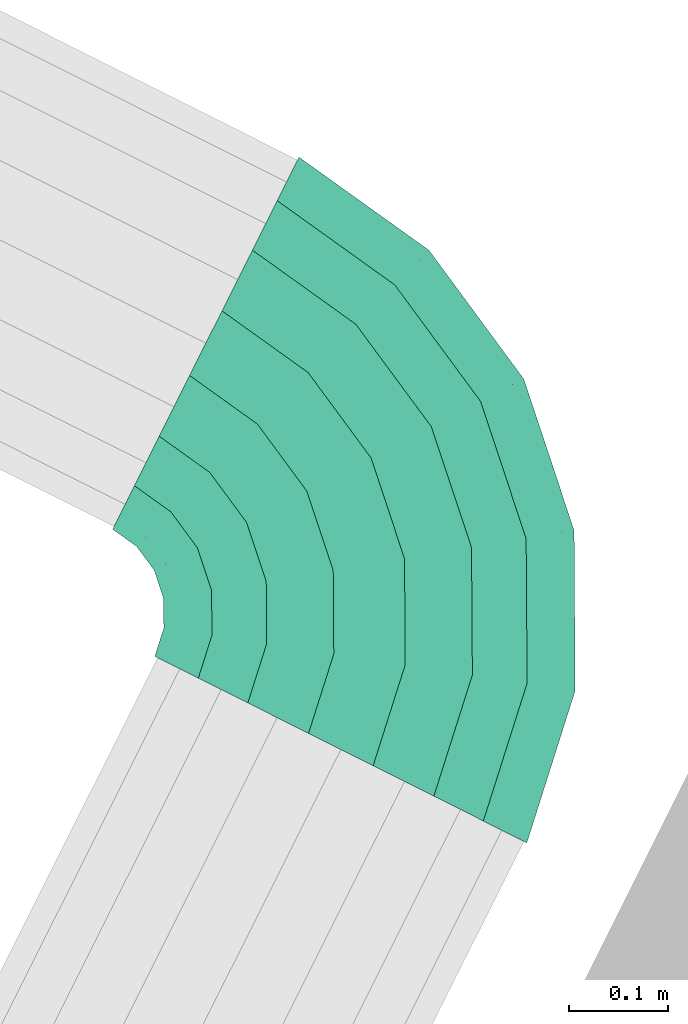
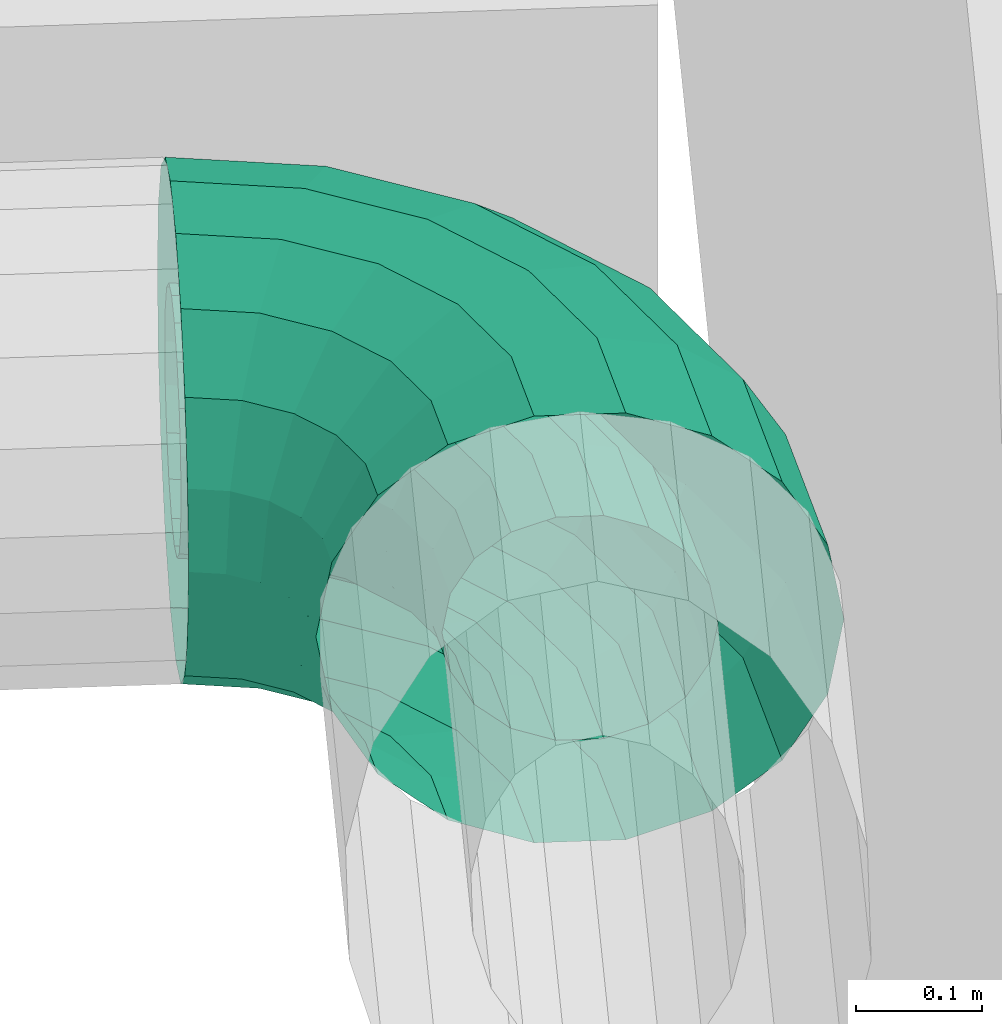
# One storey, part 51 of 206: 1 flow segment.
"""IFC2X3 building model written with IfcOpenShell, lengths in metres."""

from ifc_helpers import new_model, si_unit, derived_unit, direction, frame, origin, place, context, subcontext, project, spatial, face_set, surface_model, source, transform, mapped, material, type_object, type_shapes, element, save


model = new_model("IFC2X3")

# Units and contexts
model_context = context("Model", 3, precision=5.2338327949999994e-05, world=origin(), true_north=direction((0.0, 1.0)))
body_context = subcontext(model_context, "Body", "Model", "MODEL_VIEW")
ifc_project = project(units=[si_unit("LENGTHUNIT", "METRE"), si_unit("AREAUNIT", "SQUARE_METRE"), si_unit("VOLUMEUNIT", "CUBIC_METRE"), si_unit("MASSUNIT", "GRAM", prefix="KILO"), si_unit("PLANEANGLEUNIT", "RADIAN"), derived_unit("THERMALTRANSMITTANCEUNIT", [(si_unit("MASSUNIT", "GRAM", prefix="KILO"), 1), (si_unit("THERMODYNAMICTEMPERATUREUNIT", "KELVIN"), -1), (si_unit("TIMEUNIT", "SECOND"), -3)])], contexts=[model_context])

# Site, building, storey
site_placement = place(None, frame((0.0, 0.0, 0.0), z_axis=(0.0, 0.0, 1.0), x_axis=(0.8939966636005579, -0.4480736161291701, 0.0)))
site = spatial("IfcSite", under=ifc_project, at=site_placement, Name="Default", CompositionType="ELEMENT")
building_placement = place(site_placement, origin())
building = spatial("IfcBuilding", under=site, at=building_placement, CompositionType="ELEMENT")
storey_placement = place(building_placement, origin())
storey = spatial("IfcBuildingStorey", under=building, at=storey_placement, Name="Erdgeschoss", CompositionType="ELEMENT", Elevation=0.0)

# Flow segment
ifc_material = material(Name="IfcSurfaceStyle #9317")
distribution_element_type = type_object("IfcDistributionElementType", Name="Rohrbogen 342300:Rohrbogen 342300", material=ifc_material)
shared_shape = source(origin(), body_context, "Body", "SurfaceModel", [
    surface_model("IfcFaceBasedSurfaceModel", [(28.271548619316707, 4.97886291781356, 2.354), (28.271548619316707, 4.972256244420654, 2.3914683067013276), (28.39761003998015, 4.952290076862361, 2.391468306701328), (28.399651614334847, 4.958573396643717, 2.3540000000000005), (28.511331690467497, 4.894346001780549, 2.391468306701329), (28.515214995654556, 4.899690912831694, 2.354000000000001), (28.6015817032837, 4.804095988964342, 2.3914683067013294), (28.606926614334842, 4.8079792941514, 2.354000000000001), (28.65952577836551, 4.690374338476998, 2.3914683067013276), (28.665809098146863, 4.692415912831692, 2.3540000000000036), (28.679491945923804, 4.564312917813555, 2.3914683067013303), (28.686098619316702, 4.564312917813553, 2.354000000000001), (28.271548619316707, 4.953233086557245, 2.4244173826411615), (28.391731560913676, 4.934197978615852, 2.424417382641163), (28.50015015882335, 4.878955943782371, 2.424417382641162), (28.58619164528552, 4.792914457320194, 2.424417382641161), (28.641433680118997, 4.684495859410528, 2.4244173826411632), (28.660468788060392, 4.564312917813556, 2.424417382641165), (28.271548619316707, 4.92408791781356, 2.4488730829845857), (28.382725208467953, 4.906479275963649, 2.4488730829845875), (28.483019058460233, 4.855377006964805, 2.4488730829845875), (28.562612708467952, 4.775783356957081, 2.448873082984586), (28.613714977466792, 4.675489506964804, 2.4488730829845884), (28.631323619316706, 4.564312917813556, 2.4488730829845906), (28.271548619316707, 4.888336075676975, 2.4618856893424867), (28.37167728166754, 4.872477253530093, 2.461885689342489), (28.462004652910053, 4.826453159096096, 2.4618856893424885), (28.53368886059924, 4.754768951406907, 2.461885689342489), (28.57971295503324, 4.664441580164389, 2.461885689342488), (28.595571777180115, 4.564312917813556, 2.461885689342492), (28.271548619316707, 4.850289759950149, 2.461885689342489), (28.359920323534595, 4.836293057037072, 2.461885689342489), (28.439641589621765, 4.795673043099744, 2.461885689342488), (28.502908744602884, 4.732405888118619, 2.461885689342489), (28.54352875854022, 4.652684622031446, 2.4618856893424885), (28.55752546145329, 4.564312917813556, 2.461885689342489), (28.271548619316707, 4.814537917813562, 2.4488730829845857), (28.348872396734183, 4.802291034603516, 2.448873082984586), (28.418627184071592, 4.766749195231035, 2.4488730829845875), (28.473984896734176, 4.711391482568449, 2.4488730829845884), (28.50952673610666, 4.64163669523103, 2.4488730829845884), (28.521773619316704, 4.564312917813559, 2.448873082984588), (28.271548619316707, 4.785392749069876, 2.424417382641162), (28.339866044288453, 4.774572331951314, 2.4244173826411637), (28.401496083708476, 4.7431702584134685, 2.424417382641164), (28.450405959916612, 4.694260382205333, 2.4244173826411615), (28.481808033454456, 4.632630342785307, 2.4244173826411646), (28.492628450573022, 4.564312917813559, 2.424417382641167), (28.271548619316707, 4.766369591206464, 2.3914683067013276), (28.33398756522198, 4.756480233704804, 2.391468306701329), (28.39031455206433, 4.72778020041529, 2.3914683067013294), (28.435015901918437, 4.683078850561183, 2.391468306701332), (28.46371593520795, 4.626751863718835, 2.391468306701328), (28.47360529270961, 4.5643129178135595, 2.391468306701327), (28.271548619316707, 4.759762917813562, 2.354000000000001), (28.33194599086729, 4.750196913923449, 2.354000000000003), (28.386431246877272, 4.722435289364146, 2.354000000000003), (28.42967099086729, 4.679195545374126, 2.3540000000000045), (28.45743261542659, 4.624710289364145, 2.3540000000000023), (28.466998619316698, 4.5643129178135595, 2.3540000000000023), (28.271548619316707, 4.766369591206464, 2.316531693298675), (28.33398756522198, 4.756480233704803, 2.316531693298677), (28.39031455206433, 4.727780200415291, 2.3165316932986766), (28.435015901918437, 4.683078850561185, 2.3165316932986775), (28.46371593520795, 4.626751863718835, 2.316531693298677), (28.473605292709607, 4.564312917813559, 2.316531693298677), (28.271548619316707, 4.785392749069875, 2.283582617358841), (28.339866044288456, 4.774572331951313, 2.2835826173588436), (28.40149608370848, 4.7431702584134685, 2.2835826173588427), (28.450405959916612, 4.694260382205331, 2.2835826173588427), (28.481808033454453, 4.632630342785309, 2.2835826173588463), (28.492628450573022, 4.564312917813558, 2.283582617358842), (28.271548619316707, 4.814537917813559, 2.2591269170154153), (28.348872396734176, 4.802291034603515, 2.2591269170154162), (28.418627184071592, 4.766749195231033, 2.259126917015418), (28.47398489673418, 4.7113914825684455, 2.2591269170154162), (28.50952673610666, 4.64163669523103, 2.259126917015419), (28.521773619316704, 4.564312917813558, 2.259126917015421), (28.271548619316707, 4.850289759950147, 2.2461143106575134), (28.3599203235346, 4.8362930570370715, 2.246114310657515), (28.43964158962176, 4.795673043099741, 2.246114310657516), (28.502908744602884, 4.732405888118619, 2.246114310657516), (28.54352875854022, 4.652684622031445, 2.2461143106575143), (28.55752546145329, 4.564312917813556, 2.2461143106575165), (28.271548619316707, 4.888336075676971, 2.2461143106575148), (28.37167728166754, 4.872477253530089, 2.2461143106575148), (28.462004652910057, 4.826453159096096, 2.2461143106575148), (28.53368886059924, 4.754768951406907, 2.2461143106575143), (28.57971295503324, 4.664441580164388, 2.246114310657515), (28.595571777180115, 4.564312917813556, 2.2461143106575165), (28.271548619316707, 4.9240879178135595, 2.259126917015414), (28.382725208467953, 4.906479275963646, 2.259126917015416), (28.483019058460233, 4.855377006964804, 2.2591269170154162), (28.562612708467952, 4.7757833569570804, 2.2591269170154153), (28.613714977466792, 4.675489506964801, 2.2591269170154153), (28.631323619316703, 4.564312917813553, 2.2591269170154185), (28.271548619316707, 4.953233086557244, 2.283582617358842), (28.391731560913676, 4.93419797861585, 2.283582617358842), (28.50015015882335, 4.87895594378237, 2.283582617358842), (28.58619164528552, 4.792914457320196, 2.2835826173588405), (28.641433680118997, 4.684495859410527, 2.2835826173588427), (28.66046878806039, 4.564312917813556, 2.2835826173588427), (28.271548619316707, 4.972256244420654, 2.316531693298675), (28.39761003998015, 4.952290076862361, 2.3165316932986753), (28.511331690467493, 4.8943460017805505, 2.3165316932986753), (28.6015817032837, 4.804095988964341, 2.316531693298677), (28.659525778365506, 4.690374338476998, 2.3165316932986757), (28.679491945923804, 4.564312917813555, 2.3165316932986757), (28.271548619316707, 5.07886291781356, 2.354000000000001), (28.27154861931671, 5.066225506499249, 2.425670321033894), (28.42664813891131, 5.041660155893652, 2.425670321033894), (28.43055331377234, 5.053679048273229, 2.354000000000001), (28.566565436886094, 4.970368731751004, 2.425670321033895), (28.5739935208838, 4.980592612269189, 2.354000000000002), (28.677604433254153, 4.859329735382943, 2.4256703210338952), (28.687828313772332, 4.866757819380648, 2.354000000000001), (28.748895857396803, 4.719412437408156, 2.4256703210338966), (28.760914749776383, 4.723317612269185, 2.354000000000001), (28.773461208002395, 4.564312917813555, 2.4256703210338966), (28.78609861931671, 4.564312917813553, 2.3540000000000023), (28.271548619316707, 5.0298375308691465, 2.4886961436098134), (28.41540363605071, 5.00705313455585, 2.488696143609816), (28.545177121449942, 4.940930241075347, 2.4886961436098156), (28.648165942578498, 4.83794141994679, 2.4886961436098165), (28.714288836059, 4.708167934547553, 2.4886961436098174), (28.73707323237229, 4.564312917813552, 2.488696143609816), (28.271548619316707, 4.974087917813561, 2.535475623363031), (28.3981760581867, 4.954032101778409, 2.5354756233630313), (28.512408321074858, 4.895827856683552, 2.5354756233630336), (28.603063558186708, 4.805172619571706, 2.5354756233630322), (28.661267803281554, 4.690940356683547, 2.535475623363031), (28.6813236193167, 4.564312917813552, 2.5354756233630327), (28.271548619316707, 4.905700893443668, 2.560366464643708), (28.377043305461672, 4.888992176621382, 2.5603664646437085), (28.472211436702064, 4.8405015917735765, 2.5603664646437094), (28.547737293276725, 4.764975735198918, 2.5603664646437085), (28.59622787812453, 4.66980760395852, 2.5603664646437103), (28.61293659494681, 4.564312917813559, 2.560366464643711), (28.271548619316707, 4.832924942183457, 2.5603664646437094), (28.354554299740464, 4.819778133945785, 2.5603664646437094), (28.42943480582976, 4.781624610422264, 2.560366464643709), (28.488860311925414, 4.722199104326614, 2.5603664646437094), (28.52701383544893, 4.647318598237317, 2.5603664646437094), (28.540160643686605, 4.5643129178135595, 2.5603664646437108), (28.271548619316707, 4.764537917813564, 2.53547562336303), (28.33342154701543, 4.754738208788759, 2.5354756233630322), (28.38923792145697, 4.726298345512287, 2.535475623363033), (28.43353404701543, 4.682002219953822, 2.5354756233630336), (28.4619739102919, 4.626185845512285, 2.5354756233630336), (28.471773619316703, 4.564312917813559, 2.5354756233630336), (28.271548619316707, 4.708788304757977, 2.488696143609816), (28.31619396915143, 4.701717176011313, 2.488696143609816), (28.356469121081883, 4.68119596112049, 2.488696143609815), (28.388431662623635, 4.649233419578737, 2.488696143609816), (28.40895287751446, 4.60895826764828, 2.488696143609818), (28.416024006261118, 4.564312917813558, 2.4886961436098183), (28.271548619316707, 4.672400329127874, 2.4256703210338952), (28.30494946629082, 4.667110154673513, 2.4256703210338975), (28.335080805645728, 4.651757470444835, 2.4256703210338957), (28.35899317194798, 4.627845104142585, 2.425670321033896), (28.374345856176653, 4.597713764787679, 2.4256703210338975), (28.379636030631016, 4.564312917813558, 2.425670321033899), (28.271548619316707, 4.659762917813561, 2.354000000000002), (28.301044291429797, 4.655091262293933, 2.3540000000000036), (28.32765272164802, 4.641533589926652, 2.3540000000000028), (28.348769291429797, 4.620417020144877, 2.3540000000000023), (28.362326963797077, 4.593808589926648, 2.354000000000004), (28.366998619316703, 4.5643129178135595, 2.3540000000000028), (28.271548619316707, 4.672400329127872, 2.282329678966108), (28.30494946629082, 4.667110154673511, 2.282329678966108), (28.335080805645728, 4.651757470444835, 2.2823296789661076), (28.35899317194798, 4.627845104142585, 2.2823296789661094), (28.374345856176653, 4.597713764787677, 2.282329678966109), (28.379636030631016, 4.564312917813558, 2.2823296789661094), (28.271548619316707, 4.708788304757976, 2.219303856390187), (28.31619396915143, 4.701717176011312, 2.219303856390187), (28.356469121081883, 4.68119596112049, 2.219303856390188), (28.388431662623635, 4.649233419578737, 2.2193038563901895), (28.40895287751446, 4.608958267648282, 2.2193038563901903), (28.416024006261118, 4.564312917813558, 2.2193038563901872), (28.271548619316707, 4.764537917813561, 2.172524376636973), (28.333421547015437, 4.7547382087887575, 2.172524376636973), (28.389237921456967, 4.726298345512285, 2.1725243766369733), (28.433534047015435, 4.682002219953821, 2.1725243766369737), (28.461973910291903, 4.626185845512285, 2.1725243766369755), (28.471773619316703, 4.564312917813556, 2.172524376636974), (28.271548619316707, 4.832924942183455, 2.1476335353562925), (28.354554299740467, 4.819778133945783, 2.147633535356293), (28.429434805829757, 4.781624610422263, 2.1476335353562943), (28.48886031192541, 4.722199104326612, 2.1476335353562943), (28.52701383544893, 4.647318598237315, 2.1476335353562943), (28.540160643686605, 4.564312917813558, 2.1476335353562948), (28.271548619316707, 4.905700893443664, 2.147633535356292), (28.377043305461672, 4.888992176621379, 2.147633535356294), (28.472211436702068, 4.840501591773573, 2.1476335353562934), (28.547737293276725, 4.764975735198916, 2.1476335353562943), (28.596227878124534, 4.669807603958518, 2.147633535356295), (28.61293659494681, 4.564312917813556, 2.1476335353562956), (28.27154861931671, 4.974087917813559, 2.172524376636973), (28.398176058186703, 4.954032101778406, 2.172524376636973), (28.512408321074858, 4.8958278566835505, 2.1725243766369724), (28.603063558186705, 4.805172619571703, 2.172524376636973), (28.661267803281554, 4.690940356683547, 2.172524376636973), (28.681323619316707, 4.564312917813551, 2.172524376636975), (28.271548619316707, 5.029837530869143, 2.219303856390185), (28.41540363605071, 5.00705313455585, 2.219303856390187), (28.545177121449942, 4.940930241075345, 2.2193038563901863), (28.648165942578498, 4.837941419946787, 2.2193038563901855), (28.714288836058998, 4.708167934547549, 2.2193038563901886), (28.737073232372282, 4.5643129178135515, 2.2193038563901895), (28.27154861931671, 5.066225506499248, 2.2823296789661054), (28.42664813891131, 5.041660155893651, 2.2823296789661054), (28.566565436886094, 4.970368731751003, 2.282329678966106), (28.67760443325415, 4.859329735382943, 2.2823296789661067), (28.748895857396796, 4.719412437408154, 2.282329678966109), (28.773461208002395, 4.564312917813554, 2.2823296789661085)], [face_set([[[0, 1, 2, 3]], [[3, 2, 4, 5]], [[5, 4, 6, 7]], [[7, 6, 8, 9]], [[9, 8, 10, 11]], [[1, 12, 13, 2]], [[2, 13, 14, 4]], [[4, 14, 15, 6]], [[6, 15, 16, 8]], [[8, 16, 17, 10]], [[12, 18, 19, 13]], [[13, 19, 20, 14]], [[14, 20, 21, 15]], [[15, 21, 22, 16]], [[16, 22, 23, 17]], [[18, 24, 25, 19]], [[19, 25, 26, 20]], [[20, 26, 27, 21]], [[21, 27, 28, 22]], [[22, 28, 29, 23]], [[24, 30, 31, 25]], [[25, 31, 32, 26]], [[26, 32, 33, 27]], [[27, 33, 34, 28]], [[28, 34, 35, 29]], [[30, 36, 37, 31]], [[31, 37, 38, 32]], [[32, 38, 39, 33]], [[33, 39, 40, 34]], [[34, 40, 41, 35]], [[36, 42, 43, 37]], [[37, 43, 44, 38]], [[38, 44, 45, 39]], [[39, 45, 46, 40]], [[40, 46, 47, 41]], [[42, 48, 49, 43]], [[43, 49, 50, 44]], [[44, 50, 51, 45]], [[45, 51, 52, 46]], [[46, 52, 53, 47]], [[48, 54, 55, 49]], [[49, 55, 56, 50]], [[50, 56, 57, 51]], [[51, 57, 58, 52]], [[52, 58, 59, 53]], [[54, 60, 61, 55]], [[55, 61, 62, 56]], [[56, 62, 63, 57]], [[57, 63, 64, 58]], [[58, 64, 65, 59]], [[60, 66, 67, 61]], [[61, 67, 68, 62]], [[62, 68, 69, 63]], [[63, 69, 70, 64]], [[64, 70, 71, 65]], [[66, 72, 73, 67]], [[67, 73, 74, 68]], [[68, 74, 75, 69]], [[69, 75, 76, 70]], [[70, 76, 77, 71]], [[72, 78, 79, 73]], [[73, 79, 80, 74]], [[74, 80, 81, 75]], [[75, 81, 82, 76]], [[76, 82, 83, 77]], [[78, 84, 85, 79]], [[79, 85, 86, 80]], [[80, 86, 87, 81]], [[81, 87, 88, 82]], [[82, 88, 89, 83]], [[84, 90, 91, 85]], [[85, 91, 92, 86]], [[86, 92, 93, 87]], [[87, 93, 94, 88]], [[88, 94, 95, 89]], [[90, 96, 97, 91]], [[91, 97, 98, 92]], [[92, 98, 99, 93]], [[93, 99, 100, 94]], [[94, 100, 101, 95]], [[96, 102, 103, 97]], [[97, 103, 104, 98]], [[98, 104, 105, 99]], [[99, 105, 106, 100]], [[100, 106, 107, 101]], [[102, 0, 3, 103]], [[103, 3, 5, 104]], [[104, 5, 7, 105]], [[105, 7, 9, 106]], [[106, 9, 11, 107]], [[108, 109, 110, 111]], [[111, 110, 112, 113]], [[113, 112, 114, 115]], [[115, 114, 116, 117]], [[117, 116, 118, 119]], [[109, 120, 121, 110]], [[110, 121, 122, 112]], [[112, 122, 123, 114]], [[114, 123, 124, 116]], [[116, 124, 125, 118]], [[120, 126, 127, 121]], [[121, 127, 128, 122]], [[122, 128, 129, 123]], [[123, 129, 130, 124]], [[124, 130, 131, 125]], [[126, 132, 133, 127]], [[127, 133, 134, 128]], [[128, 134, 135, 129]], [[129, 135, 136, 130]], [[130, 136, 137, 131]], [[132, 138, 139, 133]], [[133, 139, 140, 134]], [[134, 140, 141, 135]], [[135, 141, 142, 136]], [[136, 142, 143, 137]], [[138, 144, 145, 139]], [[139, 145, 146, 140]], [[140, 146, 147, 141]], [[141, 147, 148, 142]], [[142, 148, 149, 143]], [[144, 150, 151, 145]], [[145, 151, 152, 146]], [[146, 152, 153, 147]], [[147, 153, 154, 148]], [[148, 154, 155, 149]], [[150, 156, 157, 151]], [[151, 157, 158, 152]], [[152, 158, 159, 153]], [[153, 159, 160, 154]], [[154, 160, 161, 155]], [[156, 162, 163, 157]], [[157, 163, 164, 158]], [[158, 164, 165, 159]], [[159, 165, 166, 160]], [[160, 166, 167, 161]], [[162, 168, 169, 163]], [[163, 169, 170, 164]], [[164, 170, 171, 165]], [[165, 171, 172, 166]], [[166, 172, 173, 167]], [[168, 174, 175, 169]], [[169, 175, 176, 170]], [[170, 176, 177, 171]], [[171, 177, 178, 172]], [[172, 178, 179, 173]], [[174, 180, 181, 175]], [[175, 181, 182, 176]], [[176, 182, 183, 177]], [[177, 183, 184, 178]], [[178, 184, 185, 179]], [[180, 186, 187, 181]], [[181, 187, 188, 182]], [[182, 188, 189, 183]], [[183, 189, 190, 184]], [[184, 190, 191, 185]], [[186, 192, 193, 187]], [[187, 193, 194, 188]], [[188, 194, 195, 189]], [[189, 195, 196, 190]], [[190, 196, 197, 191]], [[192, 198, 199, 193]], [[193, 199, 200, 194]], [[194, 200, 201, 195]], [[195, 201, 202, 196]], [[196, 202, 203, 197]], [[198, 204, 205, 199]], [[199, 205, 206, 200]], [[200, 206, 207, 201]], [[201, 207, 208, 202]], [[202, 208, 209, 203]], [[204, 210, 211, 205]], [[205, 211, 212, 206]], [[206, 212, 213, 207]], [[207, 213, 214, 208]], [[208, 214, 215, 209]], [[210, 108, 111, 211]], [[211, 111, 113, 212]], [[212, 113, 115, 213]], [[213, 115, 117, 214]], [[214, 117, 119, 215]]])]),
])
type_shapes(distribution_element_type, [shared_shape])
flow_segment_placement = place(storey_placement, origin())
element("IfcFlowSegment", 1, at=flow_segment_placement, inside=storey, type_object=distribution_element_type, material=ifc_material, Name="Rohrbogen", ObjectType="Rohrbogen", context=body_context, shape_type="MappedRepresentation", body=[
    mapped(shared_shape, transform((0.0, 0.0, 0.0), scale=1.0)),
])

save(model, "model.ifc")
